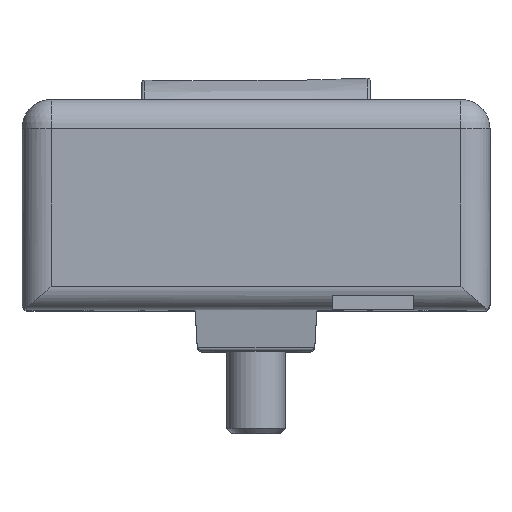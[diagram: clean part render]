
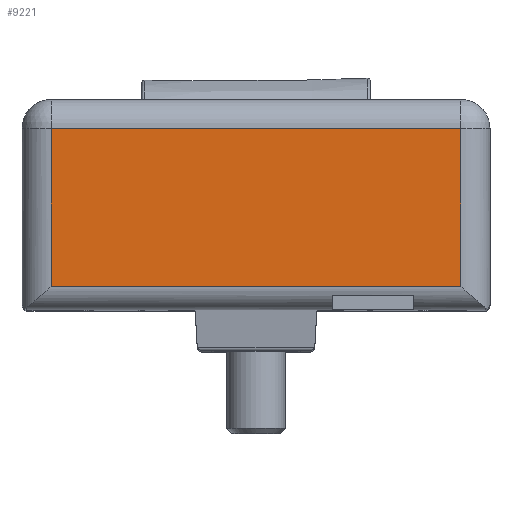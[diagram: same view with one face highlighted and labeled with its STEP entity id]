
A CAD part, top view. The second image highlights one B-rep face of the part: STEP entity #9221.
In plain terms, the highlighted planar face has unit normal (0, 0, 1).
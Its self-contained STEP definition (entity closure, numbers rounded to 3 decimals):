
#351=LINE('',#13899,#1367);
#391=LINE('',#14053,#1407);
#392=LINE('',#14057,#1408);
#393=LINE('',#14059,#1409);
#1367=VECTOR('',#11010,1000.);
#1407=VECTOR('',#11136,1000.);
#1408=VECTOR('',#11141,1000.);
#1409=VECTOR('',#11142,1000.);
#2284=PLANE('',#9898);
#3348=ORIENTED_EDGE('',*,*,#5857,.T.);
#3349=ORIENTED_EDGE('',*,*,#5786,.F.);
#3350=ORIENTED_EDGE('',*,*,#5859,.F.);
#3351=ORIENTED_EDGE('',*,*,#5860,.T.);
#5786=EDGE_CURVE('',#7096,#7097,#351,.T.);
#5857=EDGE_CURVE('',#7143,#7097,#391,.T.);
#5859=EDGE_CURVE('',#7144,#7096,#392,.T.);
#5860=EDGE_CURVE('',#7144,#7143,#393,.F.);
#7096=VERTEX_POINT('',#13898);
#7097=VERTEX_POINT('',#13900);
#7143=VERTEX_POINT('',#14054);
#7144=VERTEX_POINT('',#14058);
#8149=EDGE_LOOP('',(#3348,#3349,#3350,#3351));
#8696=FACE_BOUND('',#8149,.T.);
#9221=ADVANCED_FACE('',(#8696),#2284,.F.);
#9898=AXIS2_PLACEMENT_3D('',#14056,#11139,#11140);
#11010=DIRECTION('',(-1.,0.,0.));
#11136=DIRECTION('',(0.,-1.,0.));
#11139=DIRECTION('',(0.,0.,-1.));
#11140=DIRECTION('',(-1.,0.,0.));
#11141=DIRECTION('',(0.,-1.,0.));
#11142=DIRECTION('',(1.,0.,0.));
#13898=CARTESIAN_POINT('',(17.5,2.,40.));
#13899=CARTESIAN_POINT('',(22.,2.,40.));
#13900=CARTESIAN_POINT('',(-17.5,2.,40.));
#14053=CARTESIAN_POINT('',(-17.5,18.,40.));
#14054=CARTESIAN_POINT('',(-17.5,15.5,40.));
#14056=CARTESIAN_POINT('',(-17.5,18.,40.));
#14057=CARTESIAN_POINT('',(17.5,18.,40.));
#14058=CARTESIAN_POINT('',(17.5,15.5,40.));
#14059=CARTESIAN_POINT('',(-17.5,15.5,40.));
